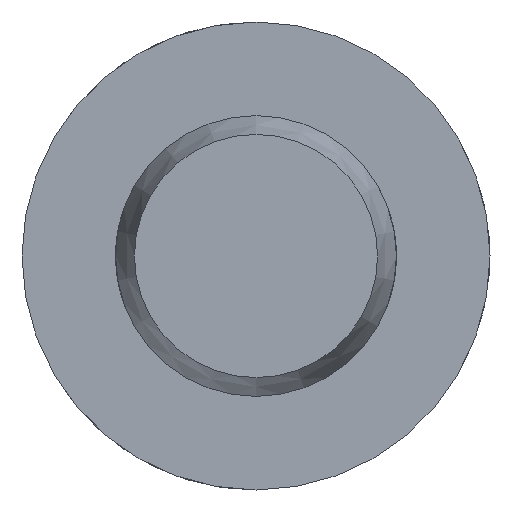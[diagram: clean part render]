
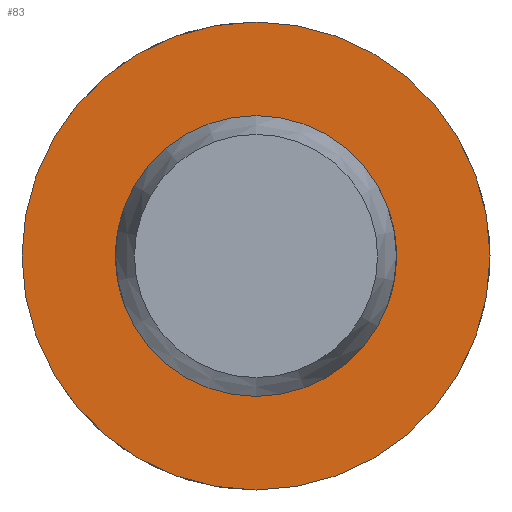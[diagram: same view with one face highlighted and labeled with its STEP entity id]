
A CAD part, left-side view. The second image highlights one B-rep face of the part: STEP entity #83.
In plain terms, the highlighted planar face has unit normal (-1, 0, 0).
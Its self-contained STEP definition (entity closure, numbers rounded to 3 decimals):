
#83 = ADVANCED_FACE( '', ( #128, #129 ), #130, .F. );
#128 = FACE_OUTER_BOUND( '', #205, .T. );
#129 = FACE_BOUND( '', #206, .T. );
#130 = PLANE( '', #207 );
#205 = EDGE_LOOP( '', ( #320 ) );
#206 = EDGE_LOOP( '', ( #321 ) );
#207 = AXIS2_PLACEMENT_3D( '', #322, #323, #324 );
#320 = ORIENTED_EDGE( '', *, *, #484, .F. );
#321 = ORIENTED_EDGE( '', *, *, #474, .T. );
#322 = CARTESIAN_POINT( '', ( 70.6, 6., 0. ) );
#323 = DIRECTION( '', ( 1., 0., 0. ) );
#324 = DIRECTION( '', ( 0., 0., -1. ) );
#474 = EDGE_CURVE( '', #545, #545, #546, .T. );
#484 = EDGE_CURVE( '', #563, #563, #564, .T. );
#545 = VERTEX_POINT( '', #734 );
#546 = CIRCLE( '', #735, 6. );
#563 = VERTEX_POINT( '', #903 );
#564 = CIRCLE( '', #904, 10. );
#734 = CARTESIAN_POINT( '', ( 70.6, 0., -6. ) );
#735 = AXIS2_PLACEMENT_3D( '', #965, #966, #967 );
#903 = CARTESIAN_POINT( '', ( 70.6, 0., -10. ) );
#904 = AXIS2_PLACEMENT_3D( '', #986, #987, #988 );
#965 = CARTESIAN_POINT( '', ( 70.6, 0., 0. ) );
#966 = DIRECTION( '', ( 1., 0., 0. ) );
#967 = DIRECTION( '', ( 0., 0., -1. ) );
#986 = CARTESIAN_POINT( '', ( 70.6, 0., 0. ) );
#987 = DIRECTION( '', ( 1., 0., 0. ) );
#988 = DIRECTION( '', ( 0., 0., -1. ) );
